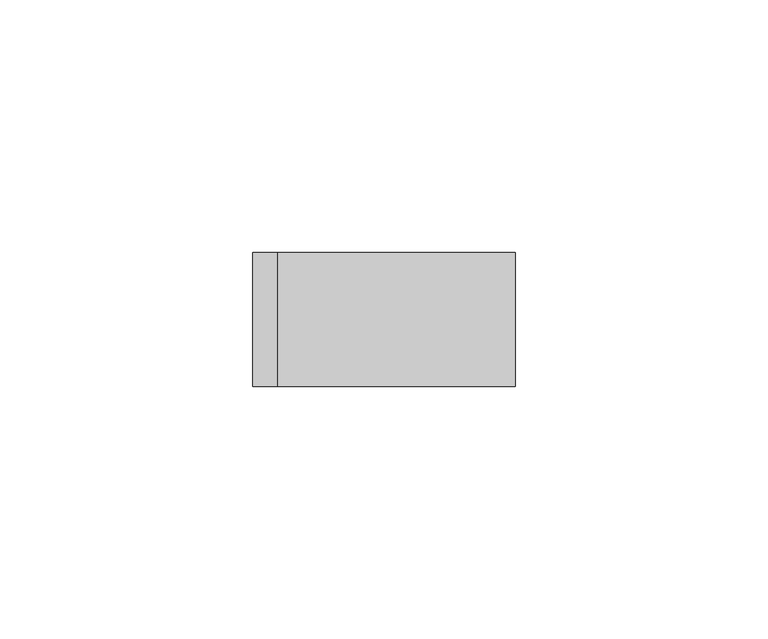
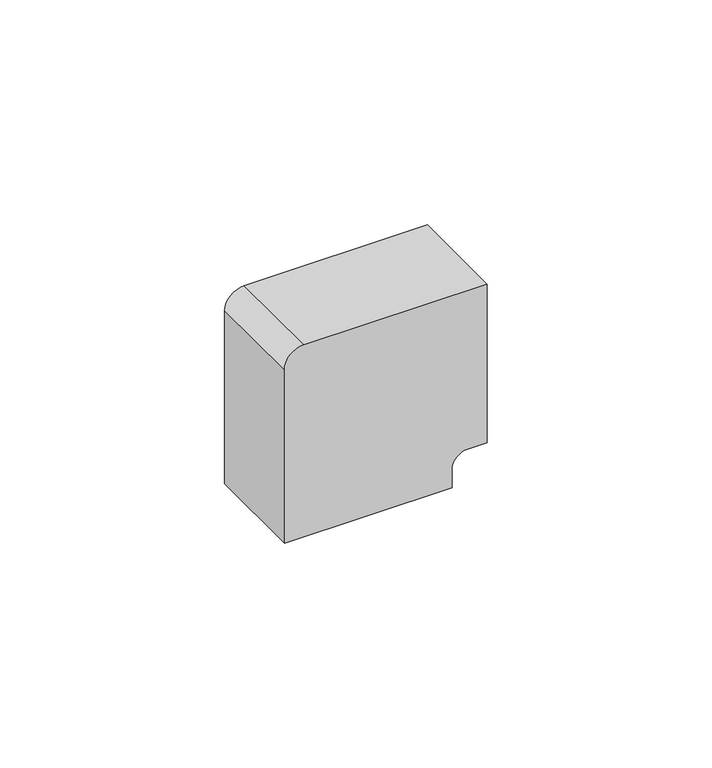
"""IFC4 building model written with IfcOpenShell, lengths in millimetres: proxy geometry, Поворот_на_90_гр.КМП : Поворот на 90 гр. КМП 40x25."""

from ifc_helpers import new_model, si_unit, point, frame, frame_2d, origin, place, context, project, spatial, polyline, circle_curve, trimmed, segment, composite_curve, outline, extrude, source, transform, mapped, element, save


def generic_models_cb125ba8(model_context):
    return source(origin(), model_context, "Body", "SweptSolid", [
        extrude(outline(composite_curve([segment(polyline([(2.0580612, -9.0), (7.0580612, -9.0)]), True, "CONTINUOUS"), segment(trimmed(circle_curve(frame_2d((7.0580612, -5.0)), 4.0), [point((7.0580612, -9.0))], [point((11.0580612, -5.0))], True, "CARTESIAN"), True, "CONTINUOUS"), segment(polyline([(11.0580612, -5.0), (11.0580612, 0.0), (54.0580612, 0.0), (54.0580612, -46.9954444)]), True, "CONTINUOUS"), segment(trimmed(circle_curve(frame_2d((49.0535056, -46.9954444)), 5.0045556), [point((54.0580612, -46.9954444))], [point((49.0535056, -52.0))], False, "CARTESIAN"), True, "CONTINUOUS"), segment(polyline([(49.0535056, -52.0), (2.0580612, -52.0), (2.0580612, -9.0)]), True, "CONTINUOUS")], self_intersect=False)), frame((0.0, -26.5, 0.0), z_axis=(0.0, 1.0, 0.0), x_axis=(0.0, 0.0, 1.0)), (0.0, 0.0, 1.0), 26.5),
    ])


if __name__ == "__main__":
    model = new_model("IFC4")
    model_context = context("Model", 3, world=origin())
    ifc_project = project(units=[si_unit("LENGTHUNIT", "METRE", prefix="MILLI")], contexts=[model_context])
    site = spatial("IfcSite", under=ifc_project)
    building = spatial("IfcBuilding", under=site)
    placement = place(None, origin())
    generic_models_shape = generic_models_cb125ba8(model_context)
    element("IfcBuildingElementProxy", 1, Name="Поворот_на_90_гр.КМП : Поворот на 90 гр. КМП 40x25", ObjectType="Поворот_на_90_гр.КМП : Поворот на 90 гр. КМП 40x25", at=placement, inside=building, context=model_context, shape_type="MappedRepresentation", body=[
        mapped(generic_models_shape, transform((0.0, 0.0, 0.0), x_axis=(1.0, 0.0, 0.0), y_axis=(0.0, 1.0, 0.0), z_axis=(0.0, 0.0, 1.0))),
    ])
    save(model, "model.ifc")
